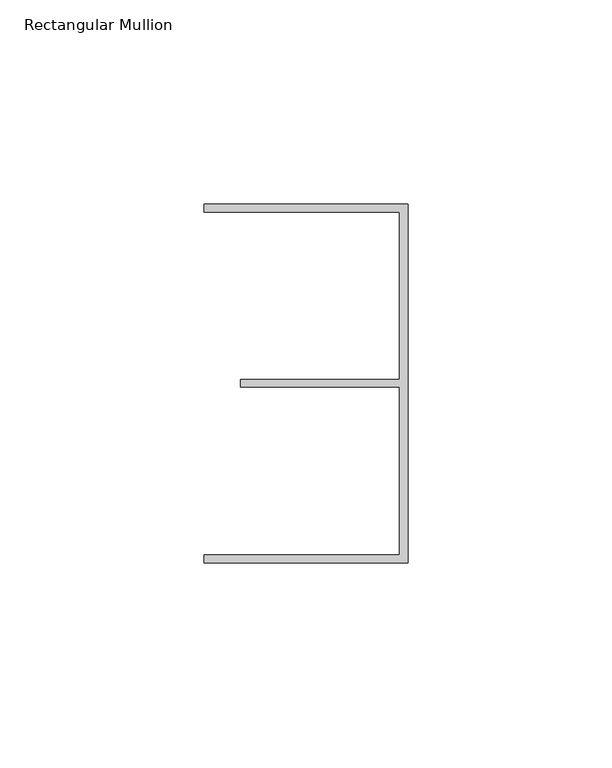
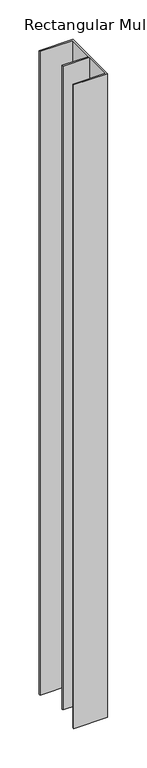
"""IFC4 building model written with IfcOpenShell, lengths in millimetres: member geometry, Rectangular Mullion : FLOOR_TRACK_CAP 94-KLS00-P80-SD41ALU."""

from ifc_helpers import new_model, si_unit, frame, origin, place, context, project, spatial, polyline, outline, extrude, source, transform, mapped, element, save


def rectangular_mullion_78ad2c18(model_context):
    return source(origin(), model_context, "Body", "SweptSolid", [
        extrude(outline(polyline([(0.0, -44.0), (-50.0, -44.0), (-50.0, -42.0), (-2.0, -42.0), (-2.0, -0.9316478), (-41.0, -0.9316478), (-41.0, 0.9316478), (-2.0, 0.9316478), (-2.0, 42.0), (-50.0, 42.0), (-50.0, 44.0), (0.0, 44.0), (0.0, -44.0)])), frame((0.0, 0.0, -999.6), z_axis=(0.0, 0.0, 1.0), x_axis=(1.0, 0.0, 0.0)), (0.0, 0.0, 1.0), 999.6),
    ])


if __name__ == "__main__":
    model = new_model("IFC4")
    model_context = context("Model", 3, world=origin())
    ifc_project = project(units=[si_unit("LENGTHUNIT", "METRE", prefix="MILLI")], contexts=[model_context])
    site = spatial("IfcSite", under=ifc_project)
    building = spatial("IfcBuilding", under=site)
    placement = place(None, origin())
    rectangular_mullion_shape = rectangular_mullion_78ad2c18(model_context)
    element("IfcMember", 1, ObjectType="Rectangular Mullion : FLOOR_TRACK_CAP 94-KLS00-P80-SD41ALU", at=placement, inside=building, context=model_context, shape_type="MappedRepresentation", body=[
        mapped(rectangular_mullion_shape, transform((0.0, 0.0, 0.0), x_axis=(1.0, 0.0, 0.0), y_axis=(0.0, 1.0, 0.0), z_axis=(0.0, 0.0, 1.0))),
    ])
    save(model, "model.ifc")
